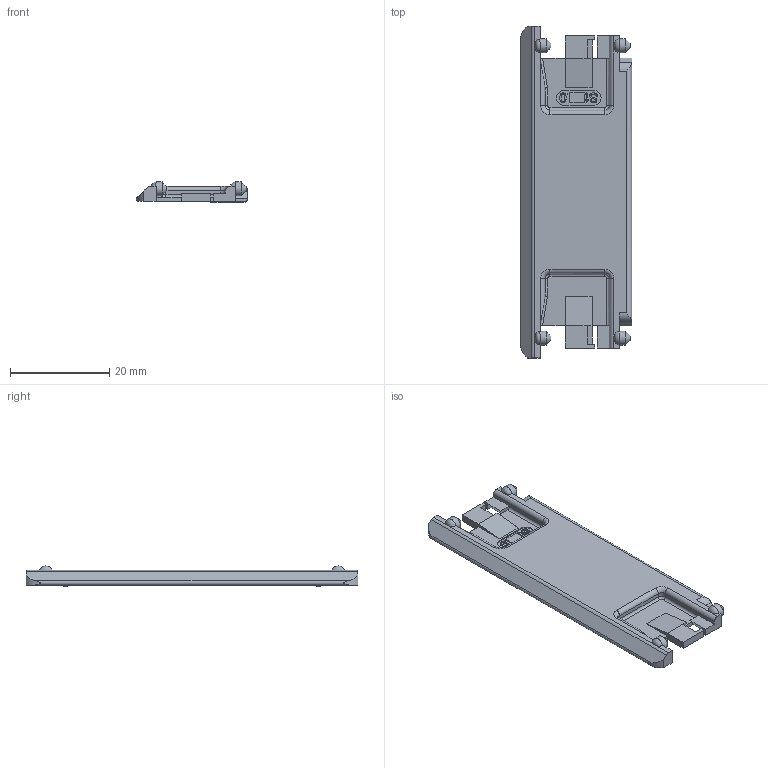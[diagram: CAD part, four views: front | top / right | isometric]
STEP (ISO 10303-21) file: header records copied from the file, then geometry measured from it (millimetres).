
FILE_DESCRIPTION((''),'2;1');
FILE_NAME('C:\Uebbing\PARAMETERKETTEN\KOLIBRI\Kol_30_080_2\Kol 30_080_0 Klappsteg.stp','2011-11-02T12:17:23',('Uebbing'),(''),'Autodesk Inventor 10','Autodesk Inventor 10','');
FILE_SCHEMA(('AUTOMOTIVE_DESIGN { 1 0 10303 214 1 1 1 1 }'));
Length unit declared in the file: millimetre
Products named in the file (1): Kol 30_080_0 Klappsteg
Bounding box: 22.5 x 67 x 4.05 mm (x, y, z)
Volume: 3171.6 mm3; surface area: 3311.5 mm2
Topology: 1 solids, 1 shells, 242 faces, 684 edges, 451 vertices
Faces by surface type: plane 113, bspline 69, cylinder 52, cone 4, torus 4
Full cylindrical faces by diameter (mm): 2.8 x4
Entity records: 8679 total; most frequent: CARTESIAN_POINT 2848, ORIENTED_EDGE 1336, DIRECTION 993, EDGE_CURVE 668, VERTEX_POINT 443, VECTOR 411, LINE 411, AXIS2_PLACEMENT_3D 291
